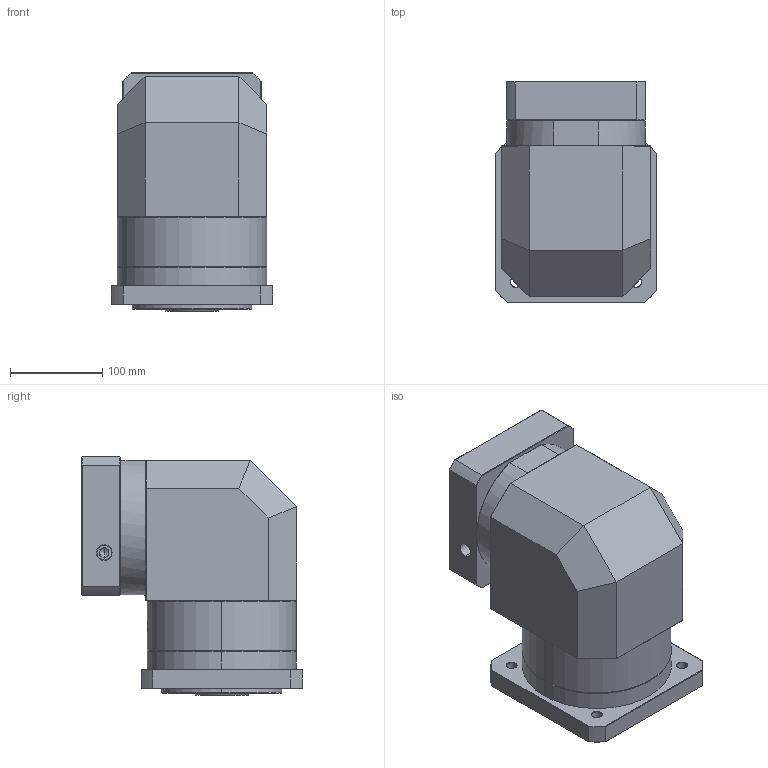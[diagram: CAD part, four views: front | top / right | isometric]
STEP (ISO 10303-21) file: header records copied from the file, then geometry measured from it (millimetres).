
FILE_DESCRIPTION (( 'STEP AP214' ), '1' );
FILE_NAME ('ZFR160A-K35-L1-P2-22-110-145-M8.step', '2023-09-03T09:00:17', ( '' ), ( '' ), 'SwSTEP 2.0', 'SolidWorks 2016', '' );
FILE_SCHEMA (( 'AUTOMOTIVE_DESIGN' ));
Length unit declared in the file: millimetre
Products named in the file (1): ZFR160A-K35-L1-P2-22-110-145-M8
Bounding box: 175 x 239.5 x 258.7 mm (x, y, z)
Volume: 6437697.2 mm3; surface area: 425893.1 mm2
Topology: 6 solids, 6 shells, 2172 faces, 5750 edges, 3684 vertices
Faces by surface type: plane 1041, bspline 406, cylinder 404, cone 301, torus 20
Entity records: 121154 total; most frequent: CARTESIAN_POINT 48749, ORIENTED_EDGE 11444, DIRECTION 8257, EDGE_CURVE 5722, VERTEX_POINT 3684, LINE 3057, VECTOR 3057, AXIS2_PLACEMENT_3D 2600
